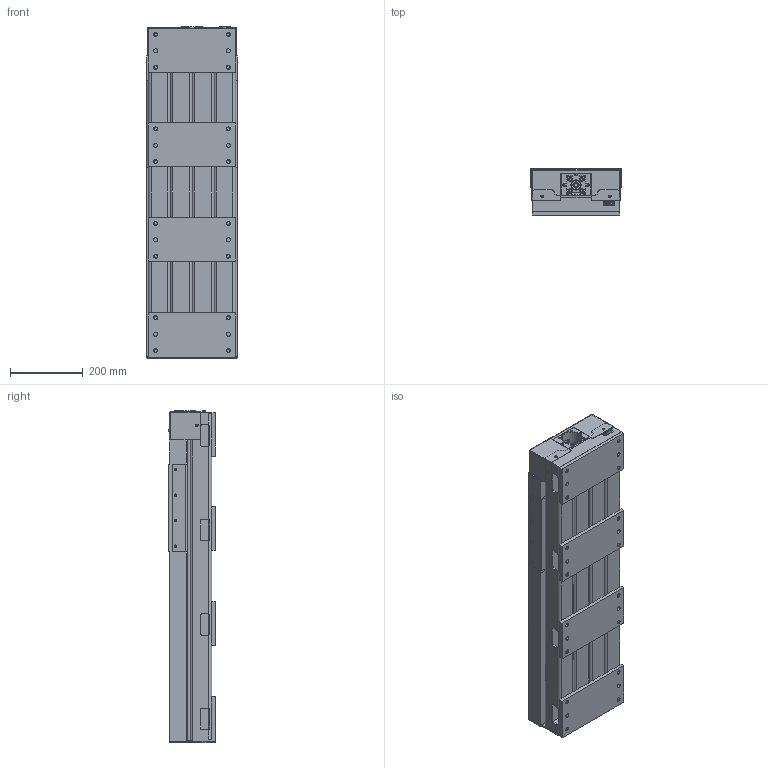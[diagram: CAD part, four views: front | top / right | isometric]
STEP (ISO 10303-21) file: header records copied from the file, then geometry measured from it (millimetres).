
FILE_DESCRIPTION (( 'STEP AP203' ), '1' );
FILE_NAME ('旂朊1.0490 bellow.STEP', '2013-02-11T13:30:40', ( 'Constructor' ), ( '' ), 'SwSTEP 2.0', 'SolidWorks 2012', '' );
FILE_SCHEMA (( 'CONFIG_CONTROL_DESIGN' ));
Products named in the file (1): 旂朊1.0490 bellow
Bounding box: 248 x 129.2 x 914 mm (x, y, z)
Volume: 10542064.2 mm3; surface area: 2263721.9 mm2
Topology: 1 solids, 47 shells, 3315 faces, 8676 edges, 5410 vertices
Faces by surface type: plane 1394, cylinder 972, cone 539, torus 204, bspline 122, sphere 84
Entity records: 109389 total; most frequent: CARTESIAN_POINT 27595, DIRECTION 17339, ORIENTED_EDGE 16876, EDGE_CURVE 8438, AXIS2_PLACEMENT_3D 6439, VERTEX_POINT 5338, VECTOR 4461, LINE 4461
